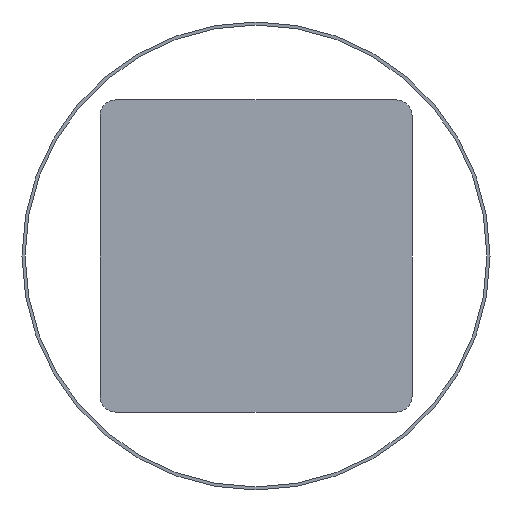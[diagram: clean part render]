
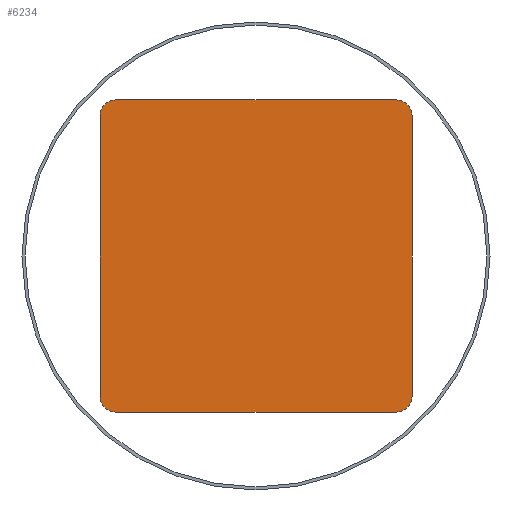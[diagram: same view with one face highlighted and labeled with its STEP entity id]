
A CAD part, front view. The second image highlights one B-rep face of the part: STEP entity #6234.
In plain terms, the highlighted planar face has unit normal (0, -1, 0).
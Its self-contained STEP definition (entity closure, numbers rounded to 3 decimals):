
#172 = CARTESIAN_POINT ( 'NONE',  ( 24.22, -356.904, 832. ) ) ;
#177 = EDGE_CURVE ( 'NONE', #2544, #5407, #2161, .T. ) ;
#201 = CIRCLE ( 'NONE', #6371, 10. ) ;
#409 = DIRECTION ( 'NONE',  ( 0., 0., 1. ) ) ;
#487 = VECTOR ( 'NONE', #2834, 1000. ) ;
#635 = VECTOR ( 'NONE', #8171, 1000. ) ;
#665 = ORIENTED_EDGE ( 'NONE', *, *, #5483, .T. ) ;
#737 = CARTESIAN_POINT ( 'NONE',  ( -155.78, -356.904, 652. ) ) ;
#1153 = VECTOR ( 'NONE', #7640, 1000. ) ;
#1224 = CARTESIAN_POINT ( 'NONE',  ( -155.78, -356.904, 832. ) ) ;
#1452 = DIRECTION ( 'NONE',  ( 0., -1., 0. ) ) ;
#1662 = DIRECTION ( 'NONE',  ( 0., -1., 0. ) ) ;
#1739 = CARTESIAN_POINT ( 'NONE',  ( -155.78, -356.904, 642. ) ) ;
#1871 = AXIS2_PLACEMENT_3D ( 'NONE', #8193, #3017, #7557 ) ;
#2161 = LINE ( 'NONE', #2336, #635 ) ;
#2308 = CARTESIAN_POINT ( 'NONE',  ( -155.78, -356.904, 842. ) ) ;
#2320 = CARTESIAN_POINT ( 'NONE',  ( -165.78, -356.904, 842. ) ) ;
#2336 = CARTESIAN_POINT ( 'NONE',  ( -165.78, -356.904, 642. ) ) ;
#2487 = CARTESIAN_POINT ( 'NONE',  ( 24.22, -356.904, 642. ) ) ;
#2544 = VERTEX_POINT ( 'NONE', #6956 ) ;
#2704 = CIRCLE ( 'NONE', #8450, 10. ) ;
#2834 = DIRECTION ( 'NONE',  ( 1., 0., 0. ) ) ;
#2878 = DIRECTION ( 'NONE',  ( 0., 0., 1. ) ) ;
#3017 = DIRECTION ( 'NONE',  ( 0., 1., 0. ) ) ;
#3152 = CARTESIAN_POINT ( 'NONE',  ( 34.22, -356.904, 642. ) ) ;
#3898 = CARTESIAN_POINT ( 'NONE',  ( 24.22, -356.904, 652. ) ) ;
#4106 = VERTEX_POINT ( 'NONE', #7996 ) ;
#4116 = CARTESIAN_POINT ( 'NONE',  ( 24.22, -356.904, 842. ) ) ;
#4164 = EDGE_CURVE ( 'NONE', #2544, #7844, #201, .T. ) ;
#4234 = CARTESIAN_POINT ( 'NONE',  ( 34.22, -356.904, 652. ) ) ;
#4381 = CIRCLE ( 'NONE', #6602, 10. ) ;
#4550 = ORIENTED_EDGE ( 'NONE', *, *, #4164, .T. ) ;
#4567 = LINE ( 'NONE', #5810, #5684 ) ;
#4622 = EDGE_CURVE ( 'NONE', #4106, #5271, #4381, .T. ) ;
#4965 = ORIENTED_EDGE ( 'NONE', *, *, #8176, .F. ) ;
#5130 = DIRECTION ( 'NONE',  ( -1., 0., 0. ) ) ;
#5271 = VERTEX_POINT ( 'NONE', #4116 ) ;
#5300 = EDGE_LOOP ( 'NONE', ( #6269, #665, #5971, #5561, #4965, #7376, #5499, #4550 ) ) ;
#5407 = VERTEX_POINT ( 'NONE', #6175 ) ;
#5483 = EDGE_CURVE ( 'NONE', #8339, #6701, #8429, .T. ) ;
#5499 = ORIENTED_EDGE ( 'NONE', *, *, #177, .F. ) ;
#5518 = EDGE_CURVE ( 'NONE', #8339, #7844, #4567, .T. ) ;
#5524 = EDGE_CURVE ( 'NONE', #5688, #5407, #2704, .T. ) ;
#5561 = ORIENTED_EDGE ( 'NONE', *, *, #4622, .T. ) ;
#5684 = VECTOR ( 'NONE', #5130, 1000. ) ;
#5688 = VERTEX_POINT ( 'NONE', #2308 ) ;
#5780 = DIRECTION ( 'NONE',  ( 0., 0., 1. ) ) ;
#5810 = CARTESIAN_POINT ( 'NONE',  ( -165.78, -356.904, 642. ) ) ;
#5840 = AXIS2_PLACEMENT_3D ( 'NONE', #3898, #7548, #5780 ) ;
#5971 = ORIENTED_EDGE ( 'NONE', *, *, #7311, .F. ) ;
#6024 = DIRECTION ( 'NONE',  ( 0., 0., 1. ) ) ;
#6175 = CARTESIAN_POINT ( 'NONE',  ( -165.78, -356.904, 832. ) ) ;
#6234 = ADVANCED_FACE ( 'NONE', ( #7262 ), #6882, .F. ) ;
#6269 = ORIENTED_EDGE ( 'NONE', *, *, #5518, .F. ) ;
#6371 = AXIS2_PLACEMENT_3D ( 'NONE', #737, #1452, #6024 ) ;
#6602 = AXIS2_PLACEMENT_3D ( 'NONE', #172, #1662, #2878 ) ;
#6701 = VERTEX_POINT ( 'NONE', #4234 ) ;
#6882 = PLANE ( 'NONE',  #1871 ) ;
#6901 = DIRECTION ( 'NONE',  ( 0., -1., 0. ) ) ;
#6956 = CARTESIAN_POINT ( 'NONE',  ( -165.78, -356.904, 652. ) ) ;
#7262 = FACE_OUTER_BOUND ( 'NONE', #5300, .T. ) ;
#7311 = EDGE_CURVE ( 'NONE', #4106, #6701, #7437, .T. ) ;
#7376 = ORIENTED_EDGE ( 'NONE', *, *, #5524, .T. ) ;
#7437 = LINE ( 'NONE', #3152, #1153 ) ;
#7548 = DIRECTION ( 'NONE',  ( 0., -1., 0. ) ) ;
#7557 = DIRECTION ( 'NONE',  ( 0., 0., 1. ) ) ;
#7613 = LINE ( 'NONE', #2320, #487 ) ;
#7640 = DIRECTION ( 'NONE',  ( 0., 0., -1. ) ) ;
#7844 = VERTEX_POINT ( 'NONE', #1739 ) ;
#7996 = CARTESIAN_POINT ( 'NONE',  ( 34.22, -356.904, 832. ) ) ;
#8171 = DIRECTION ( 'NONE',  ( 0., 0., 1. ) ) ;
#8176 = EDGE_CURVE ( 'NONE', #5688, #5271, #7613, .T. ) ;
#8193 = CARTESIAN_POINT ( 'NONE',  ( -65.78, -356.904, 742. ) ) ;
#8339 = VERTEX_POINT ( 'NONE', #2487 ) ;
#8429 = CIRCLE ( 'NONE', #5840, 10. ) ;
#8450 = AXIS2_PLACEMENT_3D ( 'NONE', #1224, #6901, #409 ) ;
